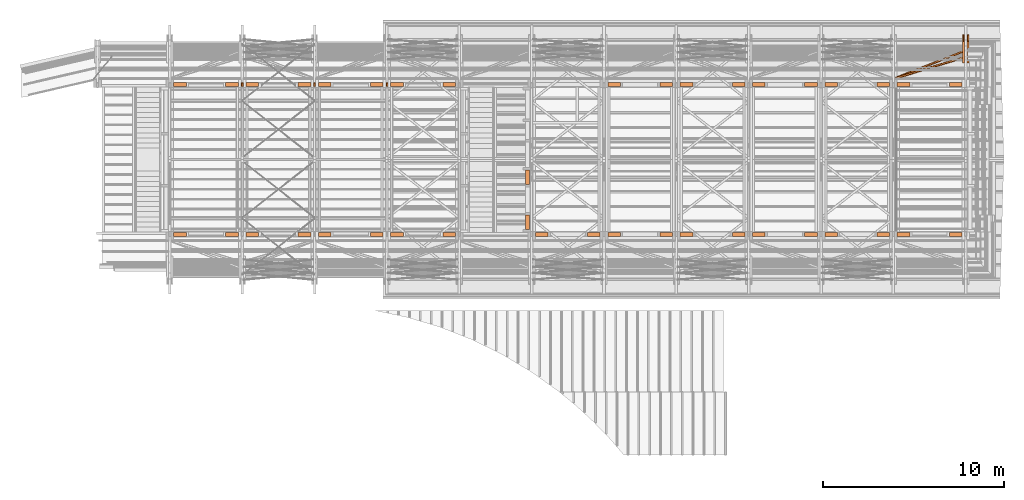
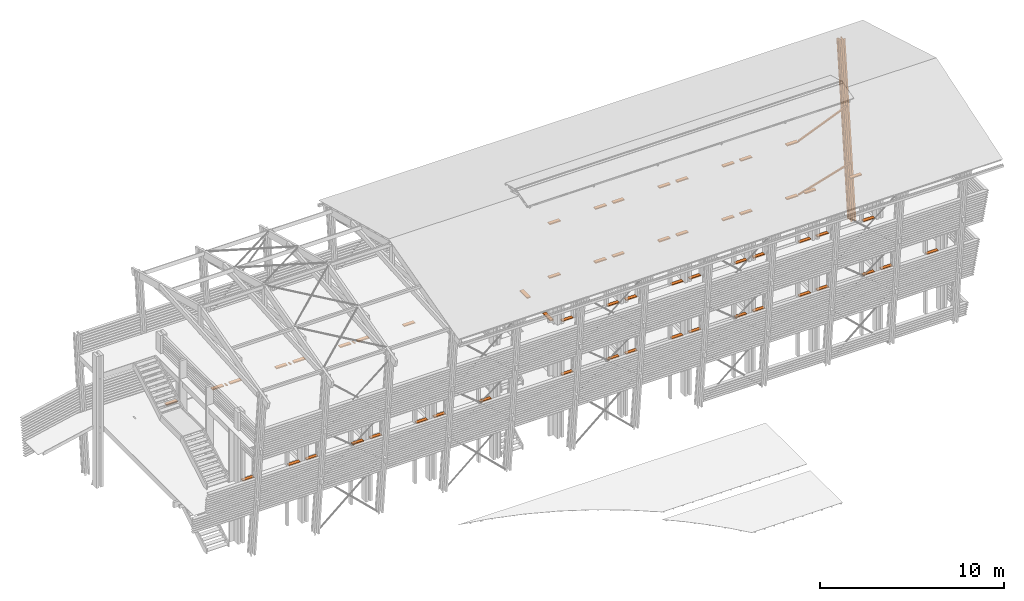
# One storey, part 48 of 48: 66 proxies.
"""IFC2X3 building model written with IfcOpenShell, lengths in metres."""

from ifc_helpers import new_model, si_unit, direction, frame, origin_with_axes, place, context, subcontext, project, spatial, faceted_brep, material, element, save


model = new_model("IFC2X3")

# Units and contexts
model_context = context("Model", 3, precision=1e-06, world=origin_with_axes(), true_north=direction((0.0, 1.0, 0.0)))
body_context = subcontext(model_context, "Body", "Model", "MODEL_VIEW")
ifc_project = project(units=[si_unit("LENGTHUNIT", "METRE"), si_unit("AREAUNIT", "SQUARE_METRE"), si_unit("VOLUMEUNIT", "CUBIC_METRE"), si_unit("PLANEANGLEUNIT", "RADIAN")], contexts=[model_context])

# Site, building, storey
site_placement = place(None, origin_with_axes())
site = spatial("IfcSite", under=ifc_project, at=site_placement, CompositionType="ELEMENT")
building_placement = place(site_placement, origin_with_axes())
building = spatial("IfcBuilding", under=site, at=building_placement, Name="Building 1", CompositionType="ELEMENT")
storey_placement = place(building_placement, origin_with_axes())
storey = spatial("IfcBuildingStorey", under=building, at=storey_placement, Name="Storey 1", CompositionType="ELEMENT", Elevation=0.0)

# Proxies
ifc_material_1 = material(Name="GL28h")
for number, where, z_axis, x_axis, name in (
    (1, (45.6997437, -193.3596515, 7.81), (0.0, -1.0, 0.0), (1.0, 0.0, 0.0), "lisse"),
    (2, (40.5797437, -193.3596515, 4.25), (0.0, -1.0, 0.0), (1.0, 0.0, 0.0), "lisse"),
):
    element("IfcBuildingElementProxy", number, at=place(storey_placement, frame(where, z_axis=z_axis, x_axis=x_axis)), inside=storey, material=ifc_material_1, Name=name, context=body_context, shape_type="Brep", body=[
        faceted_brep([(0.0, 0.035, -0.11), (0.0, -0.035, -0.11), (0.0, -0.035, 0.11), (0.0, 0.035, 0.11), (0.7, 0.035, 0.11), (0.7, 0.035, -0.11), (0.7, -0.035, 0.11), (0.7, -0.035, -0.11)], [[[0, 1, 2, 3]], [[0, 3, 4, 5]], [[3, 2, 6, 4]], [[1, 0, 5, 7]], [[2, 1, 7, 6]], [[4, 6, 7, 5]]]),
    ])
ifc_material_2 = material(Name="Acier")
proxy_1_placement = place(storey_placement, frame((69.3687437, -182.4859924, 11.6408612), z_axis=(0.0, -0.9945219, 0.1045285), x_axis=(0.0, -0.1045285, -0.9945219)))
element("IfcBuildingElementProxy", 3, at=proxy_1_placement, inside=storey, material=ifc_material_2, Name="Poteau", context=body_context, shape_type="Brep", body=[
    faceted_brep([(0.0563372, 0.0346296, -0.165699), (0.0556479, 0.0367655, -0.161347), (0.0601861, 0.051, -0.19), (0.0548889, 0.0375, -0.156555), (0.0, 0.051, 0.19), (0.0052972, 0.0375, 0.156555), (0.0045382, 0.0367655, 0.161347), (0.0592057, -0.051, -0.18381), (0.0579402, -0.0433995, -0.17582), (0.0601861, -0.051, -0.19), (0.0574199, 0.022299, -0.172535), (0.0572658, 0.0270483, -0.1715622), (0.0568935, 0.0312883, -0.1692116), (0.0588262, -0.0506328, -0.181414), (0.0584816, -0.0495648, -0.179238), (0.0582034, -0.0478941, -0.1774817), (0.0580172, -0.0457742, -0.1763064), (0.0038489, 0.0346296, 0.165699), (0.0032926, 0.0312883, 0.1692116), (0.0029203, 0.0270483, 0.1715622), (0.0027662, 0.022299, 0.172535), (0.0, -0.051, 0.19), (0.0022459, -0.0433995, 0.17582), (0.0009804, -0.051, 0.18381), (0.0021689, -0.0457742, 0.1763064), (0.0019827, -0.0478941, 0.1774817), (0.0017045, -0.0495648, 0.179238), (0.0013599, -0.0506328, 0.181414), (11.420672, 0.0375, -0.156555), (11.420672, 0.0367655, -0.161347), (11.420672, 0.0346296, -0.165699), (11.420672, 0.0312883, -0.1692116), (11.420672, 0.0270483, -0.1715622), (11.420672, 0.022299, -0.172535), (11.420672, -0.0433995, -0.17582), (11.420672, -0.0457742, -0.1763064), (11.420672, -0.0478941, -0.1774817), (11.420672, -0.0495648, -0.179238), (11.420672, -0.0506328, -0.181414), (11.420672, -0.051, -0.18381), (11.420672, -0.051, -0.19), (11.420672, 0.051, -0.19), (11.420672, 0.051, 0.19), (11.420672, -0.051, 0.19), (11.420672, -0.051, 0.18381), (11.420672, -0.0506328, 0.181414), (11.420672, -0.0495648, 0.179238), (11.420672, -0.0478941, 0.1774817), (11.420672, -0.0457742, 0.1763064), (11.420672, -0.0433995, 0.17582), (11.420672, 0.022299, 0.172535), (11.420672, 0.0270483, 0.1715622), (11.420672, 0.0312883, 0.1692116), (11.420672, 0.0346296, 0.165699), (11.420672, 0.0367655, 0.161347), (11.420672, 0.0375, 0.156555)], [[[0, 1, 2]], [[2, 1, 3]], [[2, 3, 4]], [[4, 3, 5]], [[4, 5, 6]], [[7, 8, 9]], [[9, 8, 10]], [[9, 10, 2]], [[2, 10, 11]], [[2, 11, 12]], [[7, 13, 8]], [[8, 13, 14]], [[8, 14, 15]], [[15, 16, 8]], [[12, 0, 2]], [[6, 17, 4]], [[4, 17, 18]], [[4, 18, 19]], [[19, 20, 4]], [[4, 20, 21]], [[20, 22, 21]], [[21, 22, 23]], [[24, 25, 22]], [[22, 25, 26]], [[22, 26, 27]], [[27, 23, 22]], [[3, 1, 28]], [[28, 1, 29]], [[1, 0, 29]], [[29, 0, 30]], [[0, 12, 30]], [[30, 12, 31]], [[12, 11, 31]], [[31, 11, 32]], [[11, 10, 32]], [[32, 10, 33]], [[10, 8, 33]], [[33, 8, 34]], [[8, 16, 34]], [[34, 16, 35]], [[16, 15, 35]], [[35, 15, 36]], [[15, 14, 36]], [[36, 14, 37]], [[14, 13, 37]], [[37, 13, 38]], [[13, 7, 38]], [[38, 7, 39]], [[7, 9, 39]], [[39, 9, 40]], [[9, 2, 40]], [[40, 2, 41]], [[4, 42, 2]], [[2, 42, 41]], [[43, 42, 21]], [[21, 42, 4]], [[21, 23, 43]], [[43, 23, 44]], [[23, 27, 44]], [[44, 27, 45]], [[27, 26, 45]], [[45, 26, 46]], [[26, 25, 46]], [[46, 25, 47]], [[25, 24, 47]], [[47, 24, 48]], [[24, 22, 48]], [[48, 22, 49]], [[22, 20, 49]], [[49, 20, 50]], [[20, 19, 50]], [[50, 19, 51]], [[19, 18, 51]], [[51, 18, 52]], [[18, 17, 52]], [[52, 17, 53]], [[17, 6, 53]], [[53, 6, 54]], [[6, 5, 54]], [[54, 5, 55]], [[5, 3, 55]], [[55, 3, 28]], [[53, 54, 42]], [[42, 54, 55]], [[42, 55, 41]], [[41, 55, 28]], [[41, 28, 29]], [[44, 49, 43]], [[43, 49, 50]], [[43, 50, 42]], [[42, 50, 51]], [[42, 51, 52]], [[44, 45, 49]], [[49, 45, 46]], [[49, 46, 47]], [[47, 48, 49]], [[52, 53, 42]], [[29, 30, 41]], [[41, 30, 31]], [[41, 31, 32]], [[32, 33, 41]], [[41, 33, 40]], [[33, 34, 40]], [[40, 34, 39]], [[34, 35, 39]], [[39, 35, 36]], [[39, 36, 37]], [[37, 38, 39]]]),
])
proxy_2_placement = place(storey_placement, frame((69.6107437, -182.4859924, 11.6408612), z_axis=(0.0, -0.9945219, 0.1045285), x_axis=(0.0, -0.1045285, -0.9945219)))
element("IfcBuildingElementProxy", 4, at=proxy_2_placement, inside=storey, material=ifc_material_2, Name="Poteau", context=body_context, shape_type="Brep", body=[
    faceted_brep([(0.0588262, 0.0506328, -0.181414), (0.0592057, 0.051, -0.18381), (0.0579402, 0.0433995, -0.17582), (0.0601861, 0.051, -0.19), (0.0574199, -0.022299, -0.172535), (0.0601861, -0.051, -0.19), (0.0572658, -0.0270483, -0.1715622), (0.0568935, -0.0312883, -0.1692116), (0.0045382, -0.0367655, 0.161347), (0.0052972, -0.0375, 0.156555), (0.0, -0.051, 0.19), (0.0548889, -0.0375, -0.156555), (0.0556479, -0.0367655, -0.161347), (0.0563372, -0.0346296, -0.165699), (0.0009804, 0.051, 0.18381), (0.0022459, 0.0433995, 0.17582), (0.0, 0.051, 0.19), (0.0027662, -0.022299, 0.172535), (0.0029203, -0.0270483, 0.1715622), (0.0032926, -0.0312883, 0.1692116), (0.0013599, 0.0506328, 0.181414), (0.0017045, 0.0495648, 0.179238), (0.0019827, 0.0478941, 0.1774817), (0.0021689, 0.0457742, 0.1763064), (0.0038489, -0.0346296, 0.165699), (0.0580172, 0.0457742, -0.1763064), (0.0582034, 0.0478941, -0.1774817), (0.0584816, 0.0495648, -0.179238), (11.420672, 0.0433995, 0.17582), (11.420672, 0.0457742, 0.1763064), (11.420672, 0.0478941, 0.1774817), (11.420672, 0.0495648, 0.179238), (11.420672, 0.0506328, 0.181414), (11.420672, 0.051, 0.18381), (11.420672, 0.051, 0.19), (11.420672, -0.051, 0.19), (11.420672, -0.051, -0.19), (11.420672, 0.051, -0.19), (11.420672, 0.051, -0.18381), (11.420672, 0.0506328, -0.181414), (11.420672, 0.0495648, -0.179238), (11.420672, 0.0478941, -0.1774817), (11.420672, 0.0457742, -0.1763064), (11.420672, 0.0433995, -0.17582), (11.420672, -0.022299, -0.172535), (11.420672, -0.0270483, -0.1715622), (11.420672, -0.0312883, -0.1692116), (11.420672, -0.0346296, -0.165699), (11.420672, -0.0367655, -0.161347), (11.420672, -0.0375, -0.156555), (11.420672, -0.0375, 0.156555), (11.420672, -0.0367655, 0.161347), (11.420672, -0.0346296, 0.165699), (11.420672, -0.0312883, 0.1692116), (11.420672, -0.0270483, 0.1715622), (11.420672, -0.022299, 0.172535)], [[[0, 1, 2]], [[2, 1, 3]], [[2, 3, 4]], [[4, 3, 5]], [[4, 5, 6]], [[6, 5, 7]], [[8, 9, 10]], [[10, 9, 11]], [[10, 11, 5]], [[5, 11, 12]], [[5, 12, 13]], [[14, 15, 16]], [[16, 15, 17]], [[16, 17, 10]], [[10, 17, 18]], [[10, 18, 19]], [[14, 20, 15]], [[15, 20, 21]], [[15, 21, 22]], [[22, 23, 15]], [[19, 24, 10]], [[10, 24, 8]], [[13, 7, 5]], [[25, 26, 2]], [[2, 26, 27]], [[2, 27, 0]], [[15, 23, 28]], [[28, 23, 29]], [[23, 22, 29]], [[29, 22, 30]], [[22, 21, 30]], [[30, 21, 31]], [[21, 20, 31]], [[31, 20, 32]], [[20, 14, 32]], [[32, 14, 33]], [[16, 34, 14]], [[14, 34, 33]], [[10, 5, 35]], [[35, 5, 36]], [[5, 3, 36]], [[36, 3, 37]], [[1, 38, 3]], [[3, 38, 37]], [[1, 0, 38]], [[38, 0, 39]], [[0, 27, 39]], [[39, 27, 40]], [[27, 26, 40]], [[40, 26, 41]], [[26, 25, 41]], [[41, 25, 42]], [[25, 2, 42]], [[42, 2, 43]], [[4, 44, 2]], [[2, 44, 43]], [[4, 6, 44]], [[44, 6, 45]], [[6, 7, 45]], [[45, 7, 46]], [[7, 13, 46]], [[46, 13, 47]], [[13, 12, 47]], [[47, 12, 48]], [[12, 11, 48]], [[48, 11, 49]], [[9, 50, 11]], [[11, 50, 49]], [[9, 8, 50]], [[50, 8, 51]], [[8, 24, 51]], [[51, 24, 52]], [[24, 19, 52]], [[52, 19, 53]], [[19, 18, 53]], [[53, 18, 54]], [[18, 17, 54]], [[54, 17, 55]], [[15, 28, 17]], [[17, 28, 55]], [[35, 34, 10]], [[10, 34, 16]], [[48, 49, 36]], [[36, 49, 50]], [[36, 50, 35]], [[35, 50, 51]], [[35, 51, 52]], [[41, 42, 38]], [[38, 42, 43]], [[38, 43, 37]], [[37, 43, 44]], [[37, 44, 36]], [[36, 44, 45]], [[36, 45, 46]], [[39, 40, 38]], [[38, 40, 41]], [[46, 47, 36]], [[36, 47, 48]], [[52, 53, 35]], [[35, 53, 54]], [[35, 54, 55]], [[35, 55, 34]], [[34, 55, 28]], [[34, 28, 33]], [[33, 28, 32]], [[29, 30, 28]], [[28, 30, 31]], [[28, 31, 32]]]),
])
for number, where, z_axis, x_axis, name in (
    (5, (29.6997437, -185.0564881, 4.25), (0.0, 1.0, 0.0), (1.0, 0.0, 0.0), "lisse"),
    (6, (65.6997437, -185.0564881, 4.25), (0.0, 1.0, 0.0), (1.0, 0.0, 0.0), "lisse"),
):
    element("IfcBuildingElementProxy", number, at=place(storey_placement, frame(where, z_axis=z_axis, x_axis=x_axis)), inside=storey, material=ifc_material_1, Name=name, context=body_context, shape_type="Brep", body=[
        faceted_brep([(0.0, -0.035, 0.11), (0.0, 0.035, 0.11), (0.0, 0.035, -0.11), (0.0, -0.035, -0.11), (0.7, 0.035, 0.11), (0.7, 0.035, -0.11), (0.7, -0.035, -0.11), (0.7, -0.035, 0.11)], [[[0, 1, 2, 3]], [[2, 1, 4, 5]], [[3, 2, 5, 6]], [[1, 0, 7, 4]], [[0, 3, 6, 7]], [[4, 7, 6, 5]]]),
    ])
for number, where, z_axis, x_axis, name in (
    (7, (68.5797437, -193.3596515, 4.25), (0.0, -1.0, 0.0), (1.0, 0.0, 0.0), "lisse"),
    (8, (65.6997437, -193.3596515, 4.25), (0.0, -1.0, 0.0), (1.0, 0.0, 0.0), "lisse"),
):
    element("IfcBuildingElementProxy", number, at=place(storey_placement, frame(where, z_axis=z_axis, x_axis=x_axis)), inside=storey, material=ifc_material_1, Name=name, context=body_context, shape_type="Brep", body=[
        faceted_brep([(0.0, 0.035, -0.11), (0.0, -0.035, -0.11), (0.0, -0.035, 0.11), (0.0, 0.035, 0.11), (0.7, 0.035, 0.11), (0.7, 0.035, -0.11), (0.7, -0.035, 0.11), (0.7, -0.035, -0.11)], [[[0, 1, 2, 3]], [[0, 3, 4, 5]], [[3, 2, 6, 4]], [[1, 0, 5, 7]], [[2, 1, 7, 6]], [[4, 6, 7, 5]]]),
    ])
for number, where, z_axis, x_axis, name in (
    (9, (68.5797437, -185.0564881, 4.25), (0.0, 1.0, 0.0), (1.0, 0.0, 0.0), "lisse"),
    (10, (52.5797437, -185.0564881, 7.81), (0.0, 1.0, 0.0), (1.0, 0.0, 0.0), "lisse"),
    (11, (56.5797437, -185.0564881, 4.25), (0.0, 1.0, 0.0), (1.0, 0.0, 0.0), "lisse"),
):
    element("IfcBuildingElementProxy", number, at=place(storey_placement, frame(where, z_axis=z_axis, x_axis=x_axis)), inside=storey, material=ifc_material_1, Name=name, context=body_context, shape_type="Brep", body=[
        faceted_brep([(0.0, -0.035, 0.11), (0.0, 0.035, 0.11), (0.0, 0.035, -0.11), (0.0, -0.035, -0.11), (0.7, 0.035, 0.11), (0.7, 0.035, -0.11), (0.7, -0.035, -0.11), (0.7, -0.035, 0.11)], [[[0, 1, 2, 3]], [[2, 1, 4, 5]], [[3, 2, 5, 6]], [[1, 0, 7, 4]], [[0, 3, 6, 7]], [[4, 7, 6, 5]]]),
    ])
for number, where, z_axis, x_axis, name in (
    (12, (53.6997437, -193.3596515, 4.25), (0.0, -1.0, 0.0), (1.0, 0.0, 0.0), "lisse"),
    (13, (56.5797437, -193.3596515, 7.81), (0.0, -1.0, 0.0), (1.0, 0.0, 0.0), "lisse"),
):
    element("IfcBuildingElementProxy", number, at=place(storey_placement, frame(where, z_axis=z_axis, x_axis=x_axis)), inside=storey, material=ifc_material_1, Name=name, context=body_context, shape_type="Brep", body=[
        faceted_brep([(0.0, 0.035, -0.11), (0.0, -0.035, -0.11), (0.0, -0.035, 0.11), (0.0, 0.035, 0.11), (0.7, 0.035, 0.11), (0.7, 0.035, -0.11), (0.7, -0.035, 0.11), (0.7, -0.035, -0.11)], [[[0, 1, 2, 3]], [[0, 3, 4, 5]], [[3, 2, 6, 4]], [[1, 0, 5, 7]], [[2, 1, 7, 6]], [[4, 6, 7, 5]]]),
    ])
proxy_3_placement = place(storey_placement, frame((37.4397437, -185.0564881, 4.232), z_axis=(0.0, 1.0, 0.0), x_axis=(1.0, 0.0, 0.0)))
element("IfcBuildingElementProxy", 14, at=proxy_3_placement, inside=storey, material=ifc_material_1, Name="lisse", context=body_context, shape_type="Brep", body=[
    faceted_brep([(0.0, -0.017, -0.11), (0.0, -0.017, 0.11), (0.0, 0.017, 0.11), (0.0, 0.017, -0.11), (0.1, -0.017, 0.11), (0.1, 0.017, 0.11), (0.1, 0.017, -0.11), (0.1, -0.017, -0.11)], [[[0, 1, 2, 3]], [[2, 1, 4, 5]], [[3, 2, 5, 6]], [[0, 7, 4, 1]], [[0, 3, 6, 7]], [[4, 7, 6, 5]]]),
])
proxy_4_placement = place(storey_placement, frame((61.6997437, -185.0564881, 4.25), z_axis=(0.0, 1.0, 0.0), x_axis=(1.0, 0.0, 0.0)))
element("IfcBuildingElementProxy", 15, at=proxy_4_placement, inside=storey, material=ifc_material_1, Name="lisse", context=body_context, shape_type="Brep", body=[
    faceted_brep([(0.0, -0.035, 0.11), (0.0, 0.035, 0.11), (0.0, 0.035, -0.11), (0.0, -0.035, -0.11), (0.7, 0.035, 0.11), (0.7, 0.035, -0.11), (0.7, -0.035, -0.11), (0.7, -0.035, 0.11)], [[[0, 1, 2, 3]], [[2, 1, 4, 5]], [[3, 2, 5, 6]], [[1, 0, 7, 4]], [[0, 3, 6, 7]], [[4, 7, 6, 5]]]),
])
proxy_5_placement = place(storey_placement, frame((65.5422857, -184.7290801, 3.984), z_axis=(0.2909669, -0.9567331, 0.0), x_axis=(0.9567331, 0.2909669, 0.0)))
element("IfcBuildingElementProxy", 16, at=proxy_5_placement, inside=storey, material=ifc_material_1, Name="CVLP", context=body_context, shape_type="Brep", body=[
    faceted_brep([(4.071058, -0.045, -0.045), (4.071058, -0.045, 0.045), (0.0, -0.045, 0.045), (0.0, -0.045, -0.045), (4.071058, 0.045, 0.045), (0.0, 0.045, 0.045), (4.071058, 0.045, -0.045), (0.0, 0.045, -0.045)], [[[0, 1, 2, 3]], [[1, 4, 5, 2]], [[4, 6, 7, 5]], [[6, 0, 3, 7]], [[1, 0, 6, 4]], [[7, 3, 2, 5]]]),
])
for number, where, z_axis, x_axis, name in (
    (17, (60.5797437, -185.0564881, 7.81), (0.0, 1.0, 0.0), (1.0, 0.0, 0.0), "lisse"),
    (18, (61.6997437, -185.0564881, 7.81), (0.0, 1.0, 0.0), (1.0, 0.0, 0.0), "lisse"),
):
    element("IfcBuildingElementProxy", number, at=place(storey_placement, frame(where, z_axis=z_axis, x_axis=x_axis)), inside=storey, material=ifc_material_1, Name=name, context=body_context, shape_type="Brep", body=[
        faceted_brep([(0.0, -0.035, 0.11), (0.0, 0.035, 0.11), (0.0, 0.035, -0.11), (0.0, -0.035, -0.11), (0.7, 0.035, 0.11), (0.7, 0.035, -0.11), (0.7, -0.035, -0.11), (0.7, -0.035, 0.11)], [[[0, 1, 2, 3]], [[2, 1, 4, 5]], [[3, 2, 5, 6]], [[1, 0, 7, 4]], [[0, 3, 6, 7]], [[4, 7, 6, 5]]]),
    ])
for number, where, z_axis, x_axis, name in (
    (19, (61.6997437, -193.3596515, 7.81), (0.0, -1.0, 0.0), (1.0, 0.0, 0.0), "lisse"),
    (20, (48.5797437, -193.3596515, 7.81), (0.0, -1.0, 0.0), (1.0, 0.0, 0.0), "lisse"),
    (21, (56.5797437, -193.3596515, 4.25), (0.0, -1.0, 0.0), (1.0, 0.0, 0.0), "lisse"),
    (22, (33.6997437, -193.3596515, 4.25), (0.0, -1.0, 0.0), (1.0, 0.0, 0.0), "lisse"),
):
    element("IfcBuildingElementProxy", number, at=place(storey_placement, frame(where, z_axis=z_axis, x_axis=x_axis)), inside=storey, material=ifc_material_1, Name=name, context=body_context, shape_type="Brep", body=[
        faceted_brep([(0.0, 0.035, -0.11), (0.0, -0.035, -0.11), (0.0, -0.035, 0.11), (0.0, 0.035, 0.11), (0.7, 0.035, 0.11), (0.7, 0.035, -0.11), (0.7, -0.035, 0.11), (0.7, -0.035, -0.11)], [[[0, 1, 2, 3]], [[0, 3, 4, 5]], [[3, 2, 6, 4]], [[1, 0, 5, 7]], [[2, 1, 7, 6]], [[4, 6, 7, 5]]]),
    ])
for number, where, z_axis, x_axis, name in (
    (23, (52.5797437, -185.0564881, 4.25), (0.0, 1.0, 0.0), (1.0, 0.0, 0.0), "lisse"),
    (24, (60.5797437, -185.0564881, 4.25), (0.0, 1.0, 0.0), (1.0, 0.0, 0.0), "lisse"),
    (25, (36.5797437, -185.0564881, 4.25), (0.0, 1.0, 0.0), (1.0, 0.0, 0.0), "lisse"),
):
    element("IfcBuildingElementProxy", number, at=place(storey_placement, frame(where, z_axis=z_axis, x_axis=x_axis)), inside=storey, material=ifc_material_1, Name=name, context=body_context, shape_type="Brep", body=[
        faceted_brep([(0.0, -0.035, 0.11), (0.0, 0.035, 0.11), (0.0, 0.035, -0.11), (0.0, -0.035, -0.11), (0.7, 0.035, 0.11), (0.7, 0.035, -0.11), (0.7, -0.035, -0.11), (0.7, -0.035, 0.11)], [[[0, 1, 2, 3]], [[2, 1, 4, 5]], [[3, 2, 5, 6]], [[1, 0, 7, 4]], [[0, 3, 6, 7]], [[4, 7, 6, 5]]]),
    ])
for number, where, z_axis, x_axis, name in (
    (26, (64.5797437, -193.3596515, 4.25), (0.0, -1.0, 0.0), (1.0, 0.0, 0.0), "lisse"),
    (27, (52.5797437, -193.3596515, 7.81), (0.0, -1.0, 0.0), (1.0, 0.0, 0.0), "lisse"),
):
    element("IfcBuildingElementProxy", number, at=place(storey_placement, frame(where, z_axis=z_axis, x_axis=x_axis)), inside=storey, material=ifc_material_1, Name=name, context=body_context, shape_type="Brep", body=[
        faceted_brep([(0.0, 0.035, -0.11), (0.0, -0.035, -0.11), (0.0, -0.035, 0.11), (0.0, 0.035, 0.11), (0.7, 0.035, 0.11), (0.7, 0.035, -0.11), (0.7, -0.035, 0.11), (0.7, -0.035, -0.11)], [[[0, 1, 2, 3]], [[0, 3, 4, 5]], [[3, 2, 6, 4]], [[1, 0, 5, 7]], [[2, 1, 7, 6]], [[4, 6, 7, 5]]]),
    ])
proxy_6_placement = place(storey_placement, frame((29.4397437, -185.0564881, 4.232), z_axis=(0.0, 1.0, 0.0), x_axis=(1.0, 0.0, 0.0)))
element("IfcBuildingElementProxy", 28, at=proxy_6_placement, inside=storey, material=ifc_material_1, Name="lisse", context=body_context, shape_type="Brep", body=[
    faceted_brep([(0.0, -0.017, -0.11), (0.0, -0.017, 0.11), (0.0, 0.017, 0.11), (0.0, 0.017, -0.11), (0.1, -0.017, 0.11), (0.1, 0.017, 0.11), (0.1, 0.017, -0.11), (0.1, -0.017, -0.11)], [[[0, 1, 2, 3]], [[2, 1, 4, 5]], [[3, 2, 5, 6]], [[0, 7, 4, 1]], [[0, 3, 6, 7]], [[4, 7, 6, 5]]]),
])
for number, where, z_axis, x_axis, name in (
    (29, (37.6997437, -185.0564881, 4.25), (0.0, 1.0, 0.0), (1.0, 0.0, 0.0), "lisse"),
    (30, (57.6997437, -185.0564881, 4.25), (0.0, 1.0, 0.0), (1.0, 0.0, 0.0), "lisse"),
):
    element("IfcBuildingElementProxy", number, at=place(storey_placement, frame(where, z_axis=z_axis, x_axis=x_axis)), inside=storey, material=ifc_material_1, Name=name, context=body_context, shape_type="Brep", body=[
        faceted_brep([(0.0, -0.035, 0.11), (0.0, 0.035, 0.11), (0.0, 0.035, -0.11), (0.0, -0.035, -0.11), (0.7, 0.035, 0.11), (0.7, 0.035, -0.11), (0.7, -0.035, -0.11), (0.7, -0.035, 0.11)], [[[0, 1, 2, 3]], [[2, 1, 4, 5]], [[3, 2, 5, 6]], [[1, 0, 7, 4]], [[0, 3, 6, 7]], [[4, 7, 6, 5]]]),
    ])
proxy_7_placement = place(storey_placement, frame((49.6997437, -193.3596515, 4.25), z_axis=(0.0, -1.0, 0.0), x_axis=(1.0, 0.0, 0.0)))
element("IfcBuildingElementProxy", 31, at=proxy_7_placement, inside=storey, material=ifc_material_1, Name="lisse", context=body_context, shape_type="Brep", body=[
    faceted_brep([(0.0, 0.035, -0.11), (0.0, -0.035, -0.11), (0.0, -0.035, 0.11), (0.0, 0.035, 0.11), (0.7, 0.035, 0.11), (0.7, 0.035, -0.11), (0.7, -0.035, 0.11), (0.7, -0.035, -0.11)], [[[0, 1, 2, 3]], [[0, 3, 4, 5]], [[3, 2, 6, 4]], [[1, 0, 5, 7]], [[2, 1, 7, 6]], [[4, 6, 7, 5]]]),
])
proxy_8_placement = place(storey_placement, frame((32.5797437, -185.0564881, 4.25), z_axis=(0.0, 1.0, 0.0), x_axis=(1.0, 0.0, 0.0)))
element("IfcBuildingElementProxy", 32, at=proxy_8_placement, inside=storey, material=ifc_material_1, Name="lisse", context=body_context, shape_type="Brep", body=[
    faceted_brep([(0.0, -0.035, 0.11), (0.0, 0.035, 0.11), (0.0, 0.035, -0.11), (0.0, -0.035, -0.11), (0.7, 0.035, 0.11), (0.7, 0.035, -0.11), (0.7, -0.035, -0.11), (0.7, -0.035, 0.11)], [[[0, 1, 2, 3]], [[2, 1, 4, 5]], [[3, 2, 5, 6]], [[1, 0, 7, 4]], [[0, 3, 6, 7]], [[4, 7, 6, 5]]]),
])
for number, where, z_axis, x_axis, name in (
    (33, (37.6997437, -193.3596515, 4.25), (0.0, -1.0, 0.0), (1.0, 0.0, 0.0), "lisse"),
    (34, (25.6997437, -193.3596515, 4.25), (0.0, -1.0, 0.0), (1.0, 0.0, 0.0), "lisse"),
):
    element("IfcBuildingElementProxy", number, at=place(storey_placement, frame(where, z_axis=z_axis, x_axis=x_axis)), inside=storey, material=ifc_material_1, Name=name, context=body_context, shape_type="Brep", body=[
        faceted_brep([(0.0, 0.035, -0.11), (0.0, -0.035, -0.11), (0.0, -0.035, 0.11), (0.0, 0.035, 0.11), (0.7, 0.035, 0.11), (0.7, 0.035, -0.11), (0.7, -0.035, 0.11), (0.7, -0.035, -0.11)], [[[0, 1, 2, 3]], [[0, 3, 4, 5]], [[3, 2, 6, 4]], [[1, 0, 5, 7]], [[2, 1, 7, 6]], [[4, 6, 7, 5]]]),
    ])
proxy_9_placement = place(storey_placement, frame((53.6997437, -185.0564881, 7.81), z_axis=(0.0, 1.0, 0.0), x_axis=(1.0, 0.0, 0.0)))
element("IfcBuildingElementProxy", 35, at=proxy_9_placement, inside=storey, material=ifc_material_1, Name="lisse", context=body_context, shape_type="Brep", body=[
    faceted_brep([(0.0, -0.035, 0.11), (0.0, 0.035, 0.11), (0.0, 0.035, -0.11), (0.0, -0.035, -0.11), (0.7, 0.035, 0.11), (0.7, 0.035, -0.11), (0.7, -0.035, -0.11), (0.7, -0.035, 0.11)], [[[0, 1, 2, 3]], [[2, 1, 4, 5]], [[3, 2, 5, 6]], [[1, 0, 7, 4]], [[0, 3, 6, 7]], [[4, 7, 6, 5]]]),
])
for number, where, z_axis, x_axis, name in (
    (36, (48.5797437, -193.3596515, 4.25), (0.0, -1.0, 0.0), (1.0, 0.0, 0.0), "lisse"),
    (37, (53.6997437, -193.3596515, 7.81), (0.0, -1.0, 0.0), (1.0, 0.0, 0.0), "lisse"),
):
    element("IfcBuildingElementProxy", number, at=place(storey_placement, frame(where, z_axis=z_axis, x_axis=x_axis)), inside=storey, material=ifc_material_1, Name=name, context=body_context, shape_type="Brep", body=[
        faceted_brep([(0.0, 0.035, -0.11), (0.0, -0.035, -0.11), (0.0, -0.035, 0.11), (0.0, 0.035, 0.11), (0.7, 0.035, 0.11), (0.7, 0.035, -0.11), (0.7, -0.035, 0.11), (0.7, -0.035, -0.11)], [[[0, 1, 2, 3]], [[0, 3, 4, 5]], [[3, 2, 6, 4]], [[1, 0, 5, 7]], [[2, 1, 7, 6]], [[4, 6, 7, 5]]]),
    ])
for number, where, z_axis, x_axis, name in (
    (38, (56.5797437, -185.0564881, 7.81), (0.0, 1.0, 0.0), (1.0, 0.0, 0.0), "lisse"),
    (39, (33.6997437, -185.0564881, 4.25), (0.0, 1.0, 0.0), (1.0, 0.0, 0.0), "lisse"),
    (40, (49.6997437, -185.0564881, 4.25), (0.0, 1.0, 0.0), (1.0, 0.0, 0.0), "lisse"),
    (41, (28.5797437, -185.0564881, 4.25), (0.0, 1.0, 0.0), (1.0, 0.0, 0.0), "lisse"),
    (42, (40.5797437, -185.0564881, 4.25), (0.0, 1.0, 0.0), (1.0, 0.0, 0.0), "lisse"),
):
    element("IfcBuildingElementProxy", number, at=place(storey_placement, frame(where, z_axis=z_axis, x_axis=x_axis)), inside=storey, material=ifc_material_1, Name=name, context=body_context, shape_type="Brep", body=[
        faceted_brep([(0.0, -0.035, 0.11), (0.0, 0.035, 0.11), (0.0, 0.035, -0.11), (0.0, -0.035, -0.11), (0.7, 0.035, 0.11), (0.7, 0.035, -0.11), (0.7, -0.035, -0.11), (0.7, -0.035, 0.11)], [[[0, 1, 2, 3]], [[2, 1, 4, 5]], [[3, 2, 5, 6]], [[1, 0, 7, 4]], [[0, 3, 6, 7]], [[4, 7, 6, 5]]]),
    ])
for number, where, z_axis, x_axis, name in (
    (43, (32.5797437, -193.3596515, 4.25), (0.0, -1.0, 0.0), (1.0, 0.0, 0.0), "lisse"),
    (44, (36.5797437, -193.3596515, 4.25), (0.0, -1.0, 0.0), (1.0, 0.0, 0.0), "lisse"),
):
    element("IfcBuildingElementProxy", number, at=place(storey_placement, frame(where, z_axis=z_axis, x_axis=x_axis)), inside=storey, material=ifc_material_1, Name=name, context=body_context, shape_type="Brep", body=[
        faceted_brep([(0.0, 0.035, -0.11), (0.0, -0.035, -0.11), (0.0, -0.035, 0.11), (0.0, 0.035, 0.11), (0.7, 0.035, 0.11), (0.7, 0.035, -0.11), (0.7, -0.035, 0.11), (0.7, -0.035, -0.11)], [[[0, 1, 2, 3]], [[0, 3, 4, 5]], [[3, 2, 6, 4]], [[1, 0, 5, 7]], [[2, 1, 7, 6]], [[4, 6, 7, 5]]]),
    ])
proxy_10_placement = place(storey_placement, frame((33.4397437, -185.0564881, 4.232), z_axis=(0.0, 1.0, 0.0), x_axis=(1.0, 0.0, 0.0)))
element("IfcBuildingElementProxy", 45, at=proxy_10_placement, inside=storey, material=ifc_material_1, Name="lisse", context=body_context, shape_type="Brep", body=[
    faceted_brep([(0.0, -0.017, -0.11), (0.0, -0.017, 0.11), (0.0, 0.017, 0.11), (0.0, 0.017, -0.11), (0.1, -0.017, 0.11), (0.1, 0.017, 0.11), (0.1, 0.017, -0.11), (0.1, -0.017, -0.11)], [[[0, 1, 2, 3]], [[2, 1, 4, 5]], [[3, 2, 5, 6]], [[0, 7, 4, 1]], [[0, 3, 6, 7]], [[4, 7, 6, 5]]]),
])
for number, where, z_axis, x_axis, name in (
    (46, (29.6997437, -193.3596515, 4.25), (0.0, -1.0, 0.0), (1.0, 0.0, 0.0), "lisse"),
    (47, (45.6997437, -193.3596515, 4.25), (0.0, -1.0, 0.0), (1.0, 0.0, 0.0), "lisse"),
    (48, (60.5797437, -193.3596515, 4.25), (0.0, -1.0, 0.0), (1.0, 0.0, 0.0), "lisse"),
    (49, (57.6997437, -193.3596515, 4.25), (0.0, -1.0, 0.0), (1.0, 0.0, 0.0), "lisse"),
):
    element("IfcBuildingElementProxy", number, at=place(storey_placement, frame(where, z_axis=z_axis, x_axis=x_axis)), inside=storey, material=ifc_material_1, Name=name, context=body_context, shape_type="Brep", body=[
        faceted_brep([(0.0, 0.035, -0.11), (0.0, -0.035, -0.11), (0.0, -0.035, 0.11), (0.0, 0.035, 0.11), (0.7, 0.035, 0.11), (0.7, 0.035, -0.11), (0.7, -0.035, 0.11), (0.7, -0.035, -0.11)], [[[0, 1, 2, 3]], [[0, 3, 4, 5]], [[3, 2, 6, 4]], [[1, 0, 5, 7]], [[2, 1, 7, 6]], [[4, 6, 7, 5]]]),
    ])
proxy_11_placement = place(storey_placement, frame((49.6997437, -185.0564881, 7.81), z_axis=(0.0, 1.0, 0.0), x_axis=(1.0, 0.0, 0.0)))
element("IfcBuildingElementProxy", 50, at=proxy_11_placement, inside=storey, material=ifc_material_1, Name="lisse", context=body_context, shape_type="Brep", body=[
    faceted_brep([(0.0, -0.035, 0.11), (0.0, 0.035, 0.11), (0.0, 0.035, -0.11), (0.0, -0.035, -0.11), (0.7, 0.035, 0.11), (0.7, 0.035, -0.11), (0.7, -0.035, -0.11), (0.7, -0.035, 0.11)], [[[0, 1, 2, 3]], [[2, 1, 4, 5]], [[3, 2, 5, 6]], [[1, 0, 7, 4]], [[0, 3, 6, 7]], [[4, 7, 6, 5]]]),
])
for number, where, z_axis, x_axis, name in (
    (51, (61.6997437, -193.3596515, 4.25), (0.0, -1.0, 0.0), (1.0, 0.0, 0.0), "lisse"),
    (52, (60.5797437, -193.3596515, 7.81), (0.0, -1.0, 0.0), (1.0, 0.0, 0.0), "lisse"),
    (53, (57.6997437, -193.3596515, 7.81), (0.0, -1.0, 0.0), (1.0, 0.0, 0.0), "lisse"),
    (54, (64.5797437, -193.3596515, 7.81), (0.0, -1.0, 0.0), (1.0, 0.0, 0.0), "lisse"),
    (55, (49.6997437, -193.3596515, 7.81), (0.0, -1.0, 0.0), (1.0, 0.0, 0.0), "lisse"),
    (56, (52.5797437, -193.3596515, 4.25), (0.0, -1.0, 0.0), (1.0, 0.0, 0.0), "lisse"),
):
    element("IfcBuildingElementProxy", number, at=place(storey_placement, frame(where, z_axis=z_axis, x_axis=x_axis)), inside=storey, material=ifc_material_1, Name=name, context=body_context, shape_type="Brep", body=[
        faceted_brep([(0.0, 0.035, -0.11), (0.0, -0.035, -0.11), (0.0, -0.035, 0.11), (0.0, 0.035, 0.11), (0.7, 0.035, 0.11), (0.7, 0.035, -0.11), (0.7, -0.035, 0.11), (0.7, -0.035, -0.11)], [[[0, 1, 2, 3]], [[0, 3, 4, 5]], [[3, 2, 6, 4]], [[1, 0, 5, 7]], [[2, 1, 7, 6]], [[4, 6, 7, 5]]]),
    ])
for number, where, z_axis, x_axis, name in (
    (57, (45.2697437, -192.2596515, 7.81), (1.0, 0.0, 0.0), (0.0, -1.0, 0.0), "lisse"),
    (58, (45.2697437, -189.7796515, 7.81), (1.0, 0.0, 0.0), (0.0, -1.0, 0.0), "lisse"),
):
    element("IfcBuildingElementProxy", number, at=place(storey_placement, frame(where, z_axis=z_axis, x_axis=x_axis)), inside=storey, material=ifc_material_1, Name=name, context=body_context, shape_type="Brep", body=[
        faceted_brep([(0.0, -0.035, 0.11), (0.0, 0.035, 0.11), (0.0, 0.035, -0.11), (0.0, -0.035, -0.11), (0.81, -0.035, -0.11), (0.81, -0.035, 0.11), (0.81, 0.035, -0.11), (0.81, 0.035, 0.11)], [[[0, 1, 2, 3]], [[0, 3, 4, 5]], [[3, 2, 6, 4]], [[2, 1, 7, 6]], [[1, 0, 5, 7]], [[7, 5, 4, 6]]]),
    ])
proxy_12_placement = place(storey_placement, frame((65.5377467, -184.7306656, 7.544), z_axis=(0.3666108, -0.9303744, 0.0), x_axis=(0.9303744, 0.3666108, 0.0)))
element("IfcBuildingElementProxy", 59, at=proxy_12_placement, inside=storey, material=ifc_material_1, Name="CVLP", context=body_context, shape_type="Brep", body=[
    faceted_brep([(4.196153, -0.045, -0.045), (4.196153, -0.045, 0.045), (0.0, -0.045, 0.045), (0.0, -0.045, -0.045), (4.196153, 0.045, 0.045), (0.0, 0.045, 0.045), (4.196153, 0.045, -0.045), (0.0, 0.045, -0.045)], [[[0, 1, 2, 3]], [[1, 4, 5, 2]], [[4, 6, 7, 5]], [[6, 0, 3, 7]], [[1, 0, 6, 4]], [[7, 3, 2, 5]]]),
])
for number, where, z_axis, x_axis, name in (
    (60, (57.6997437, -185.0564881, 7.81), (0.0, 1.0, 0.0), (1.0, 0.0, 0.0), "lisse"),
    (61, (53.6997437, -185.0564881, 4.25), (0.0, 1.0, 0.0), (1.0, 0.0, 0.0), "lisse"),
    (62, (64.5797437, -185.0564881, 7.81), (0.0, 1.0, 0.0), (1.0, 0.0, 0.0), "lisse"),
):
    element("IfcBuildingElementProxy", number, at=place(storey_placement, frame(where, z_axis=z_axis, x_axis=x_axis)), inside=storey, material=ifc_material_1, Name=name, context=body_context, shape_type="Brep", body=[
        faceted_brep([(0.0, -0.035, 0.11), (0.0, 0.035, 0.11), (0.0, 0.035, -0.11), (0.0, -0.035, -0.11), (0.7, 0.035, 0.11), (0.7, 0.035, -0.11), (0.7, -0.035, -0.11), (0.7, -0.035, 0.11)], [[[0, 1, 2, 3]], [[2, 1, 4, 5]], [[3, 2, 5, 6]], [[1, 0, 7, 4]], [[0, 3, 6, 7]], [[4, 7, 6, 5]]]),
    ])
proxy_13_placement = place(storey_placement, frame((28.5797437, -193.3596515, 4.25), z_axis=(0.0, -1.0, 0.0), x_axis=(1.0, 0.0, 0.0)))
element("IfcBuildingElementProxy", 63, at=proxy_13_placement, inside=storey, material=ifc_material_1, Name="lisse", context=body_context, shape_type="Brep", body=[
    faceted_brep([(0.0, 0.035, -0.11), (0.0, -0.035, -0.11), (0.0, -0.035, 0.11), (0.0, 0.035, 0.11), (0.7, 0.035, 0.11), (0.7, 0.035, -0.11), (0.7, -0.035, 0.11), (0.7, -0.035, -0.11)], [[[0, 1, 2, 3]], [[0, 3, 4, 5]], [[3, 2, 6, 4]], [[1, 0, 5, 7]], [[2, 1, 7, 6]], [[4, 6, 7, 5]]]),
])
proxy_14_placement = place(storey_placement, frame((25.6997437, -185.0564881, 4.25), z_axis=(0.0, 1.0, 0.0), x_axis=(1.0, 0.0, 0.0)))
element("IfcBuildingElementProxy", 64, at=proxy_14_placement, inside=storey, material=ifc_material_1, Name="lisse", context=body_context, shape_type="Brep", body=[
    faceted_brep([(0.0, -0.035, 0.11), (0.0, 0.035, 0.11), (0.0, 0.035, -0.11), (0.0, -0.035, -0.11), (0.7, 0.035, 0.11), (0.7, 0.035, -0.11), (0.7, -0.035, -0.11), (0.7, -0.035, 0.11)], [[[0, 1, 2, 3]], [[2, 1, 4, 5]], [[3, 2, 5, 6]], [[1, 0, 7, 4]], [[0, 3, 6, 7]], [[4, 7, 6, 5]]]),
])
proxy_15_placement = place(storey_placement, frame((32.5797437, -193.3596515, 4.25), z_axis=(0.0, -1.0, 0.0), x_axis=(1.0, 0.0, 0.0)))
element("IfcBuildingElementProxy", 65, at=proxy_15_placement, inside=storey, material=ifc_material_1, Name="lisse", context=body_context, shape_type="Brep", body=[
    faceted_brep([(0.0, 0.035, -0.11), (0.0, -0.035, -0.11), (0.0, -0.035, 0.11), (0.0, 0.035, 0.11), (0.7, 0.035, 0.11), (0.7, 0.035, -0.11), (0.7, -0.035, 0.11), (0.7, -0.035, -0.11)], [[[0, 1, 2, 3]], [[0, 3, 4, 5]], [[3, 2, 6, 4]], [[1, 0, 5, 7]], [[2, 1, 7, 6]], [[4, 6, 7, 5]]]),
])
proxy_16_placement = place(storey_placement, frame((64.5797437, -185.0564881, 4.25), z_axis=(0.0, 1.0, 0.0), x_axis=(1.0, 0.0, 0.0)))
element("IfcBuildingElementProxy", 66, at=proxy_16_placement, inside=storey, material=ifc_material_1, Name="lisse", context=body_context, shape_type="Brep", body=[
    faceted_brep([(0.0, -0.035, 0.11), (0.0, 0.035, 0.11), (0.0, 0.035, -0.11), (0.0, -0.035, -0.11), (0.7, 0.035, 0.11), (0.7, 0.035, -0.11), (0.7, -0.035, -0.11), (0.7, -0.035, 0.11)], [[[0, 1, 2, 3]], [[2, 1, 4, 5]], [[3, 2, 5, 6]], [[1, 0, 7, 4]], [[0, 3, 6, 7]], [[4, 7, 6, 5]]]),
])

save(model, "model.ifc")
